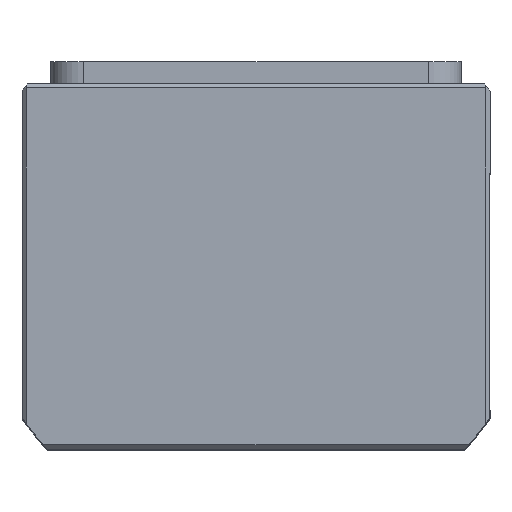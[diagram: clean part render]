
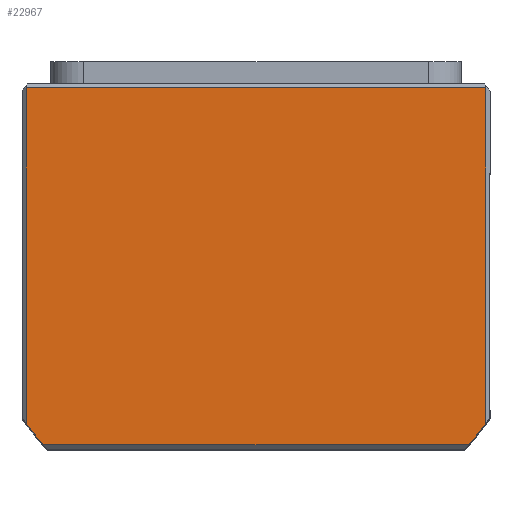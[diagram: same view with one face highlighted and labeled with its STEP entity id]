
A CAD part, top view. The second image highlights one B-rep face of the part: STEP entity #22967.
In plain terms, the highlighted planar face has unit normal (0, 0, 1) as drawn and (0, 0, -1) by its records, which use the part's own axes.
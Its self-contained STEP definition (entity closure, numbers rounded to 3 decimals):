
#213 = LINE ( 'NONE', #17631, #5258 ) ;
#217 = VERTEX_POINT ( 'NONE', #5110 ) ;
#441 = ORIENTED_EDGE ( 'NONE', *, *, #22948, .T. ) ;
#1096 = CARTESIAN_POINT ( 'NONE',  ( 0., -2.888, 0. ) ) ;
#1102 = DIRECTION ( 'NONE',  ( 1., 0., 0. ) ) ;
#1323 = EDGE_CURVE ( 'NONE', #217, #3611, #3184, .T. ) ;
#1337 = AXIS2_PLACEMENT_3D ( 'NONE', #9298, #21933, #11107 ) ;
#1488 = EDGE_CURVE ( 'NONE', #18616, #7220, #9039, .T. ) ;
#1623 = DIRECTION ( 'NONE',  ( 0., -1., 0. ) ) ;
#2147 = ORIENTED_EDGE ( 'NONE', *, *, #1323, .F. ) ;
#3184 = CIRCLE ( 'NONE', #18514, 69.5 ) ;
#3536 = PLANE ( 'NONE',  #13221 ) ;
#3611 = VERTEX_POINT ( 'NONE', #21285 ) ;
#4344 = LINE ( 'NONE', #9042, #16577 ) ;
#5110 = CARTESIAN_POINT ( 'NONE',  ( 56., 38.273, 0. ) ) ;
#5253 = EDGE_CURVE ( 'NONE', #18403, #18616, #21182, .T. ) ;
#5258 = VECTOR ( 'NONE', #1102, 1000. ) ;
#6390 = CARTESIAN_POINT ( 'NONE',  ( -56., -43.5, 0. ) ) ;
#6949 = FACE_OUTER_BOUND ( 'NONE', #10008, .T. ) ;
#7220 = VERTEX_POINT ( 'NONE', #9835 ) ;
#7293 = VECTOR ( 'NONE', #9824, 1000. ) ;
#7296 = DIRECTION ( 'NONE',  ( 1., 0., 0. ) ) ;
#7653 = CARTESIAN_POINT ( 'NONE',  ( 56., -43.5, 0. ) ) ;
#9039 = LINE ( 'NONE', #17376, #22925 ) ;
#9042 = CARTESIAN_POINT ( 'NONE',  ( 56., 0., 0. ) ) ;
#9298 = CARTESIAN_POINT ( 'NONE',  ( 0., -2.888, 0. ) ) ;
#9824 = DIRECTION ( 'NONE',  ( -1., 0., 0. ) ) ;
#9835 = CARTESIAN_POINT ( 'NONE',  ( -56., 38.273, 0. ) ) ;
#10008 = EDGE_LOOP ( 'NONE', ( #2147, #441, #20340, #15422, #13541, #18529 ) ) ;
#11107 = DIRECTION ( 'NONE',  ( 1., 0., 0. ) ) ;
#11956 = VERTEX_POINT ( 'NONE', #17747 ) ;
#13221 = AXIS2_PLACEMENT_3D ( 'NONE', #16326, #18127, #7296 ) ;
#13526 = EDGE_CURVE ( 'NONE', #11956, #3611, #213, .T. ) ;
#13541 = ORIENTED_EDGE ( 'NONE', *, *, #13881, .F. ) ;
#13881 = EDGE_CURVE ( 'NONE', #11956, #7220, #20609, .T. ) ;
#15422 = ORIENTED_EDGE ( 'NONE', *, *, #1488, .T. ) ;
#16326 = CARTESIAN_POINT ( 'NONE',  ( 0., 0., 0. ) ) ;
#16577 = VECTOR ( 'NONE', #1623, 1000. ) ;
#17376 = CARTESIAN_POINT ( 'NONE',  ( -56., 0., 0. ) ) ;
#17631 = CARTESIAN_POINT ( 'NONE',  ( 0., 43.5, 0. ) ) ;
#17747 = CARTESIAN_POINT ( 'NONE',  ( -51.753, 43.5, 0. ) ) ;
#18127 = DIRECTION ( 'NONE',  ( 0., 0., 1. ) ) ;
#18403 = VERTEX_POINT ( 'NONE', #7653 ) ;
#18514 = AXIS2_PLACEMENT_3D ( 'NONE', #1096, #20397, #20421 ) ;
#18529 = ORIENTED_EDGE ( 'NONE', *, *, #13526, .T. ) ;
#18616 = VERTEX_POINT ( 'NONE', #6390 ) ;
#19992 = DIRECTION ( 'NONE',  ( 0., 1., 0. ) ) ;
#20340 = ORIENTED_EDGE ( 'NONE', *, *, #5253, .T. ) ;
#20397 = DIRECTION ( 'NONE',  ( 0., 0., 1. ) ) ;
#20421 = DIRECTION ( 'NONE',  ( 1., 0., 0. ) ) ;
#20609 = CIRCLE ( 'NONE', #1337, 69.5 ) ;
#21182 = LINE ( 'NONE', #22475, #7293 ) ;
#21285 = CARTESIAN_POINT ( 'NONE',  ( 51.753, 43.5, 0. ) ) ;
#21933 = DIRECTION ( 'NONE',  ( 0., 0., 1. ) ) ;
#22475 = CARTESIAN_POINT ( 'NONE',  ( 0., -43.5, 0. ) ) ;
#22925 = VECTOR ( 'NONE', #19992, 1000. ) ;
#22948 = EDGE_CURVE ( 'NONE', #217, #18403, #4344, .T. ) ;
#22967 = ADVANCED_FACE ( 'NONE', ( #6949 ), #3536, .F. ) ;
